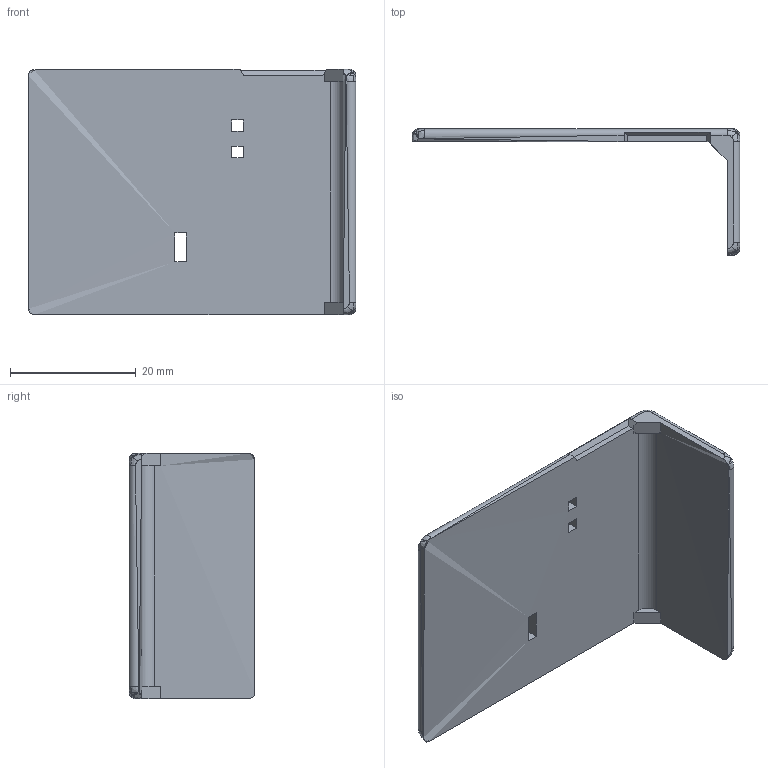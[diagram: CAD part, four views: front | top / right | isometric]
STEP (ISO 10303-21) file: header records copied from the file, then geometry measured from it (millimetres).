
FILE_DESCRIPTION(/* description */ (''),/* implementation_level */ '2;1');
FILE_NAME(/* name */ 'C:/Users/Mads/Desktop/bose_lid.stp',/* time_stamp */ '2016-12-15T17:31:54+01:00',/* author */ (''),/* organization */ (''),/* preprocessor_version */ 'ST-DEVELOPER v16.5',/* originating_system */ 'Autodesk Translation Framework v5.2.0.2920',/* authorisation */ '');
FILE_SCHEMA (('AUTOMOTIVE_DESIGN { 1 0 10303 214 3 1 1 }'));
Length unit declared in the file: millimetre
Products named in the file (1): Lokk
Bounding box: 52.07 x 20 x 39 mm (x, y, z)
Volume: 5366 mm3; surface area: 5775.8 mm2
Topology: 1 solids, 1 shells, 70 faces, 186 edges, 112 vertices
Faces by surface type: bspline 33, plane 29, cylinder 8
Entity records: 3299 total; most frequent: CARTESIAN_POINT 1668, ORIENTED_EDGE 360, DIRECTION 293, EDGE_CURVE 180, VERTEX_POINT 112, AXIS2_PLACEMENT_3D 105, LINE 83, VECTOR 83
